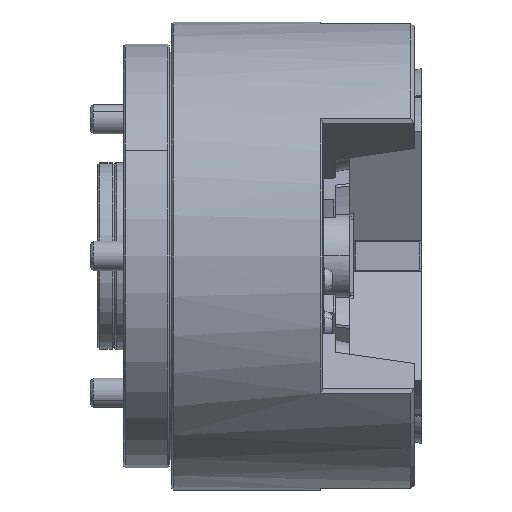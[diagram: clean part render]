
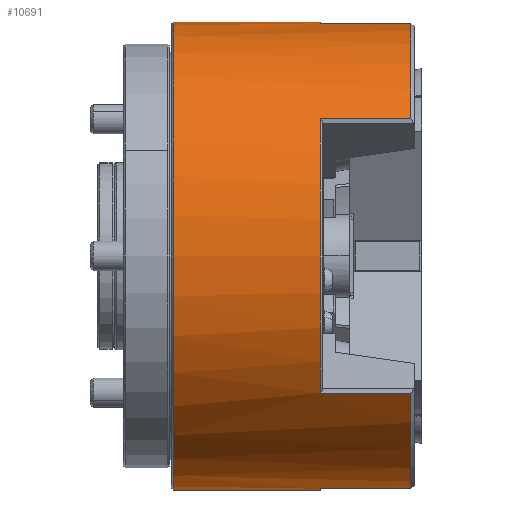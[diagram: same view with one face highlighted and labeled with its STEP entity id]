
A CAD part, front view. The second image highlights one B-rep face of the part: STEP entity #10691.
In plain terms, the highlighted cylindrical face has radius 127 mm (diameter 254 mm), a partial arc.
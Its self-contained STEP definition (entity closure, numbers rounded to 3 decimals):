
#175 = VERTEX_POINT ( 'NONE', #12033 ) ;
#758 = VERTEX_POINT ( 'NONE', #32579 ) ;
#810 = CARTESIAN_POINT ( 'NONE',  ( 125., -102.881, -74.461 ) ) ;
#1081 = CARTESIAN_POINT ( 'NONE',  ( -4., 0., -127. ) ) ;
#1176 = EDGE_CURVE ( 'NONE', #758, #32217, #11078, .T. ) ;
#1192 = CARTESIAN_POINT ( 'NONE',  ( 76., 0., 0. ) ) ;
#1334 = CARTESIAN_POINT ( 'NONE',  ( 63.843, -13.044, -126.328 ) ) ;
#2038 = AXIS2_PLACEMENT_3D ( 'NONE', #1192, #19333, #3767 ) ;
#2053 = ORIENTED_EDGE ( 'NONE', *, *, #17370, .T. ) ;
#2418 = CARTESIAN_POINT ( 'NONE',  ( 63.843, 0., -127. ) ) ;
#2579 = EDGE_LOOP ( 'NONE', ( #22842, #11887, #31335, #17792, #2053, #3032, #20132, #10774, #11752, #16437, #19478, #30569 ) ) ;
#3032 = ORIENTED_EDGE ( 'NONE', *, *, #32046, .F. ) ;
#3544 = CIRCLE ( 'NONE', #13716, 127. ) ;
#3767 = DIRECTION ( 'NONE',  ( 0., 0., -1. ) ) ;
#4516 = CARTESIAN_POINT ( 'NONE',  ( 125., -13.044, 126.328 ) ) ;
#4825 = CARTESIAN_POINT ( 'NONE',  ( 63.843, 0., 0. ) ) ;
#4841 = CIRCLE ( 'NONE', #18356, 127. ) ;
#4959 = EDGE_CURVE ( 'NONE', #21172, #19774, #9727, .T. ) ;
#6046 = CIRCLE ( 'NONE', #8935, 127. ) ;
#6303 = EDGE_CURVE ( 'NONE', #19774, #758, #3544, .T. ) ;
#6699 = CARTESIAN_POINT ( 'NONE',  ( 76., -13.044, -126.328 ) ) ;
#6800 = EDGE_CURVE ( 'NONE', #27612, #32217, #6046, .T. ) ;
#7614 = DIRECTION ( 'NONE',  ( 1., 0., 0. ) ) ;
#8935 = AXIS2_PLACEMENT_3D ( 'NONE', #9428, #27600, #12050 ) ;
#9186 = CARTESIAN_POINT ( 'NONE',  ( 125., 0., 0. ) ) ;
#9428 = CARTESIAN_POINT ( 'NONE',  ( 125., 0., 0. ) ) ;
#9485 = EDGE_CURVE ( 'NONE', #175, #14447, #32255, .T. ) ;
#9727 = LINE ( 'NONE', #25365, #18236 ) ;
#10341 = EDGE_CURVE ( 'NONE', #17218, #21365, #15255, .T. ) ;
#10437 = CARTESIAN_POINT ( 'NONE',  ( 76., 0., 0. ) ) ;
#10691 = ADVANCED_FACE ( 'NONE', ( #20901 ), #26977, .T. ) ;
#10774 = ORIENTED_EDGE ( 'NONE', *, *, #6303, .T. ) ;
#11078 = LINE ( 'NONE', #26255, #30955 ) ;
#11176 = CARTESIAN_POINT ( 'NONE',  ( 76., 0., 0. ) ) ;
#11752 = ORIENTED_EDGE ( 'NONE', *, *, #1176, .T. ) ;
#11781 = DIRECTION ( 'NONE',  ( 0., 0., -1. ) ) ;
#11842 = CARTESIAN_POINT ( 'NONE',  ( -4., 0., 0. ) ) ;
#11887 = ORIENTED_EDGE ( 'NONE', *, *, #19418, .T. ) ;
#12033 = CARTESIAN_POINT ( 'NONE',  ( 76., -13.044, 126.328 ) ) ;
#12050 = DIRECTION ( 'NONE',  ( 0., 0., -1. ) ) ;
#12597 = VERTEX_POINT ( 'NONE', #1081 ) ;
#13032 = DIRECTION ( 'NONE',  ( 0., 0., -1. ) ) ;
#13716 = AXIS2_PLACEMENT_3D ( 'NONE', #11176, #29320, #13805 ) ;
#13805 = DIRECTION ( 'NONE',  ( 0., 0., -1. ) ) ;
#14447 = VERTEX_POINT ( 'NONE', #20604 ) ;
#14472 = DIRECTION ( 'NONE',  ( 0., 0., -1. ) ) ;
#14563 = VERTEX_POINT ( 'NONE', #18624 ) ;
#14565 = VECTOR ( 'NONE', #19482, 1000. ) ;
#14671 = AXIS2_PLACEMENT_3D ( 'NONE', #10437, #28581, #13032 ) ;
#15255 = CIRCLE ( 'NONE', #14671, 127. ) ;
#15805 = VERTEX_POINT ( 'NONE', #23647 ) ;
#16437 = ORIENTED_EDGE ( 'NONE', *, *, #6800, .F. ) ;
#17010 = CARTESIAN_POINT ( 'NONE',  ( 63.843, -13.044, 126.328 ) ) ;
#17218 = VERTEX_POINT ( 'NONE', #22933 ) ;
#17370 = EDGE_CURVE ( 'NONE', #21365, #15805, #33565, .T. ) ;
#17509 = AXIS2_PLACEMENT_3D ( 'NONE', #4825, #20390, #25261 ) ;
#17792 = ORIENTED_EDGE ( 'NONE', *, *, #10341, .T. ) ;
#18236 = VECTOR ( 'NONE', #27979, 1000. ) ;
#18356 = AXIS2_PLACEMENT_3D ( 'NONE', #9186, #27336, #11781 ) ;
#18559 = CARTESIAN_POINT ( 'NONE',  ( 63.843, 0., 127. ) ) ;
#18614 = DIRECTION ( 'NONE',  ( 1., 0., 0. ) ) ;
#18624 = CARTESIAN_POINT ( 'NONE',  ( -4., 0., 127. ) ) ;
#19333 = DIRECTION ( 'NONE',  ( -1., 0., 0. ) ) ;
#19418 = EDGE_CURVE ( 'NONE', #14563, #12597, #24173, .T. ) ;
#19478 = ORIENTED_EDGE ( 'NONE', *, *, #24451, .T. ) ;
#19482 = DIRECTION ( 'NONE',  ( 1., 0., 0. ) ) ;
#19579 = DIRECTION ( 'NONE',  ( -1., 0., 0. ) ) ;
#19774 = VERTEX_POINT ( 'NONE', #23061 ) ;
#20132 = ORIENTED_EDGE ( 'NONE', *, *, #4959, .T. ) ;
#20390 = DIRECTION ( 'NONE',  ( 1., 0., 0. ) ) ;
#20604 = CARTESIAN_POINT ( 'NONE',  ( 76., 0., 127. ) ) ;
#20901 = FACE_OUTER_BOUND ( 'NONE', #2579, .T. ) ;
#20941 = LINE ( 'NONE', #2418, #27016 ) ;
#21172 = VERTEX_POINT ( 'NONE', #810 ) ;
#21245 = VECTOR ( 'NONE', #23806, 1000. ) ;
#21365 = VERTEX_POINT ( 'NONE', #6699 ) ;
#22114 = EDGE_CURVE ( 'NONE', #14563, #14447, #28968, .T. ) ;
#22697 = AXIS2_PLACEMENT_3D ( 'NONE', #11842, #29989, #14472 ) ;
#22842 = ORIENTED_EDGE ( 'NONE', *, *, #22114, .F. ) ;
#22933 = CARTESIAN_POINT ( 'NONE',  ( 76., 0., -127. ) ) ;
#23061 = CARTESIAN_POINT ( 'NONE',  ( 76., -102.881, -74.461 ) ) ;
#23647 = CARTESIAN_POINT ( 'NONE',  ( 125., -13.044, -126.328 ) ) ;
#23806 = DIRECTION ( 'NONE',  ( 1., 0., 0. ) ) ;
#24173 = CIRCLE ( 'NONE', #22697, 127. ) ;
#24451 = EDGE_CURVE ( 'NONE', #27612, #175, #25633, .T. ) ;
#24808 = VECTOR ( 'NONE', #19579, 1000. ) ;
#25261 = DIRECTION ( 'NONE',  ( 0., 0., -1. ) ) ;
#25365 = CARTESIAN_POINT ( 'NONE',  ( 63.843, -102.881, -74.461 ) ) ;
#25633 = LINE ( 'NONE', #17010, #24808 ) ;
#26255 = CARTESIAN_POINT ( 'NONE',  ( 63.843, -102.881, 74.461 ) ) ;
#26977 = CYLINDRICAL_SURFACE ( 'NONE', #17509, 127. ) ;
#27016 = VECTOR ( 'NONE', #7614, 1000. ) ;
#27194 = EDGE_CURVE ( 'NONE', #12597, #17218, #20941, .T. ) ;
#27336 = DIRECTION ( 'NONE',  ( 1., 0., 0. ) ) ;
#27600 = DIRECTION ( 'NONE',  ( 1., 0., 0. ) ) ;
#27612 = VERTEX_POINT ( 'NONE', #4516 ) ;
#27979 = DIRECTION ( 'NONE',  ( -1., 0., 0. ) ) ;
#28581 = DIRECTION ( 'NONE',  ( -1., 0., 0. ) ) ;
#28968 = LINE ( 'NONE', #18559, #21245 ) ;
#29320 = DIRECTION ( 'NONE',  ( -1., 0., 0. ) ) ;
#29989 = DIRECTION ( 'NONE',  ( 1., 0., 0. ) ) ;
#30569 = ORIENTED_EDGE ( 'NONE', *, *, #9485, .T. ) ;
#30955 = VECTOR ( 'NONE', #18614, 1000. ) ;
#31335 = ORIENTED_EDGE ( 'NONE', *, *, #27194, .T. ) ;
#32046 = EDGE_CURVE ( 'NONE', #21172, #15805, #4841, .T. ) ;
#32217 = VERTEX_POINT ( 'NONE', #33065 ) ;
#32255 = CIRCLE ( 'NONE', #2038, 127. ) ;
#32579 = CARTESIAN_POINT ( 'NONE',  ( 76., -102.881, 74.461 ) ) ;
#33065 = CARTESIAN_POINT ( 'NONE',  ( 125., -102.881, 74.461 ) ) ;
#33565 = LINE ( 'NONE', #1334, #14565 ) ;
